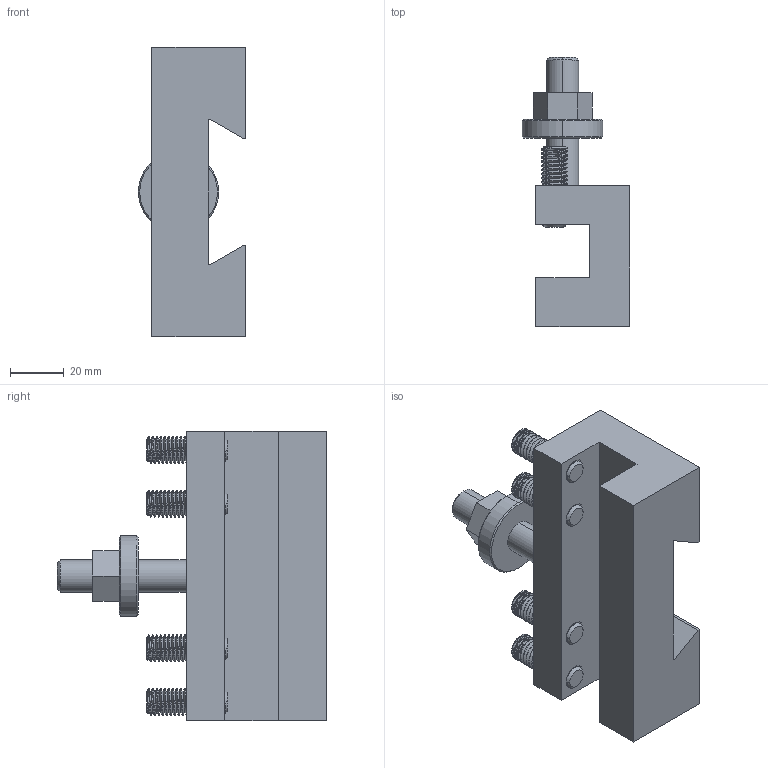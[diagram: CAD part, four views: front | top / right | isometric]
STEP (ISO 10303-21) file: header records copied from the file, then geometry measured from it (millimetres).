
FILE_DESCRIPTION (( 'STEP AP214' ), '1' );
FILE_NAME ('33123 QC TOOL BLOCK ASSY.STEP', '2014-07-31T15:31:04', ( '' ), ( '' ), 'SwSTEP 2.0', 'SolidWorks 2012', '' );
FILE_SCHEMA (( 'AUTOMOTIVE_DESIGN' ));
Length unit declared in the file: millimetre
Products named in the file (3): 33123 QC TOOL BLOCK ASSY; 33123 QC TOOL BLOCK; 93245A163 FNSS M10x30_93245A163
Assembly tree (5 placements, depth 2):
  33123 QC TOOL BLOCK ASSY
    33123 QC TOOL BLOCK
    93245A163 FNSS M10x30_93245A163  x4
Bounding box: 40 x 100.39 x 108 mm (x, y, z)
Volume: 135765.4 mm3; surface area: 38289.5 mm2
Topology: 5 solids, 5 shells, 333 faces, 863 edges, 540 vertices
Faces by surface type: cylinder 169, plane 82, cone 70, bspline 12
Entity records: 7139 total; most frequent: CARTESIAN_POINT 4113, ORIENTED_EDGE 636, DIRECTION 550, EDGE_CURVE 318, VERTEX_POINT 201, AXIS2_PLACEMENT_3D 198, LINE 154, VECTOR 154
